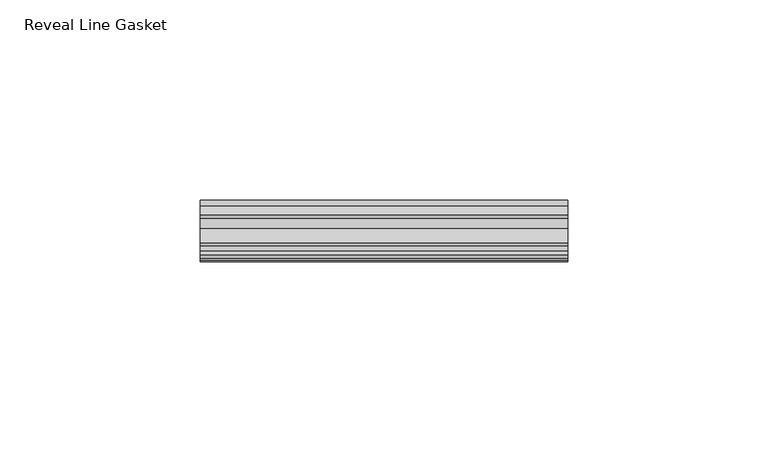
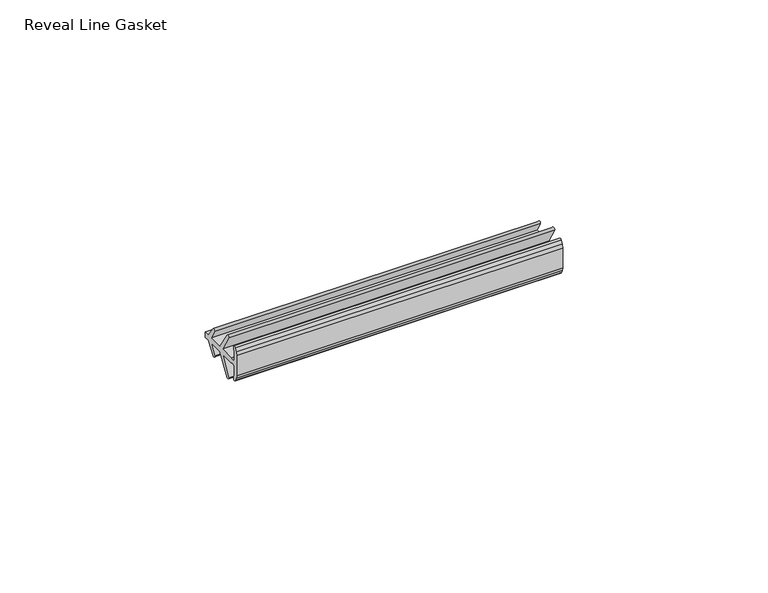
"""IFC4 building model written with IfcOpenShell, lengths in millimetres: proxy geometry, Accessories-Teknion-FHGR-AI_Healthcare-Reveal_Line_Gasket(Horizontal)-R2022 : Reveal Line Gasket."""

from ifc_helpers import new_model, si_unit, point, frame, frame_2d, origin, place, context, project, spatial, polyline, circle_curve, trimmed, segment, composite_curve, outline, extrude, source, transform, mapped, element, save


def reveal_line_gasket_759faebd(model_context):
    return source(origin(), model_context, "Body", "SweptSolid", [
        extrude(outline(composite_curve([segment(polyline([(-7.6326998, 1603.2), (-7.4091917, 1604.1554927), (-6.8813059, 1605.0884684)]), True, "CONTINUOUS"), segment(trimmed(circle_curve(frame_2d((-6.5243141, 1604.8864793)), 0.4101739), [point((-6.8813059, 1605.0884684))], [point((-6.1246704, 1604.7941347))], False, "CARTESIAN"), True, "CONTINUOUS"), segment(polyline([(-6.1246704, 1604.7941347), (-6.3626997, 1603.0979086), (-6.3626997, 1601.0654527)]), True, "CONTINUOUS"), segment(trimmed(circle_curve(frame_2d((-5.6959605, 1601.4819258)), 0.786124), [point((-6.3626997, 1601.0654527))], [point((-5.0926996, 1600.977875))], True, "CARTESIAN"), True, "CONTINUOUS"), segment(polyline([(-5.0926996, 1600.977875), (-0.7492996, 1600.977875), (-3.7293824, 1606.1395295)]), True, "CONTINUOUS"), segment(trimmed(circle_curve(frame_2d((-3.3132479, 1606.2049761)), 0.4212495), [point((-3.7293824, 1606.1395295))], [point((-3.0485022, 1606.5326358))], False, "CARTESIAN"), True, "CONTINUOUS"), segment(polyline([(-3.0485022, 1606.5326358), (0.5742594, 1600.977875), (4.8262978, 1600.977875), (3.1660374, 1603.8535297)]), True, "CONTINUOUS"), segment(trimmed(circle_curve(frame_2d((3.5978728, 1603.9118855)), 0.4357605), [point((3.1660374, 1603.8535297))], [point((3.864328, 1604.2566881))], False, "CARTESIAN"), True, "CONTINUOUS"), segment(polyline([(3.864328, 1604.2566881), (6.1944059, 1600.977875), (7.6326998, 1600.977875), (7.6326998, 1599.422125), (6.1944059, 1599.422125), (3.864328, 1596.1433119)]), True, "CONTINUOUS"), segment(trimmed(circle_curve(frame_2d((3.5978728, 1596.4881145)), 0.4357605), [point((3.864328, 1596.1433119))], [point((3.1660374, 1596.5464703))], False, "CARTESIAN"), True, "CONTINUOUS"), segment(polyline([(3.1660374, 1596.5464703), (4.8262978, 1599.422125), (0.5742594, 1599.422125), (-3.0485022, 1593.8673642)]), True, "CONTINUOUS"), segment(trimmed(circle_curve(frame_2d((-3.3132479, 1594.1950239)), 0.4212495), [point((-3.0485022, 1593.8673642))], [point((-3.7293824, 1594.2604705))], False, "CARTESIAN"), True, "CONTINUOUS"), segment(polyline([(-3.7293824, 1594.2604705), (-0.7492996, 1599.422125), (-5.0926996, 1599.422125)]), True, "CONTINUOUS"), segment(trimmed(circle_curve(frame_2d((-5.6959605, 1598.9180742)), 0.786124), [point((-5.0926996, 1599.422125))], [point((-6.3626997, 1599.3345473))], True, "CARTESIAN"), True, "CONTINUOUS"), segment(polyline([(-6.3626997, 1599.3345473), (-6.3626997, 1597.3020914), (-6.1246704, 1595.6058653)]), True, "CONTINUOUS"), segment(trimmed(circle_curve(frame_2d((-6.5243141, 1595.5135207)), 0.4101739), [point((-6.1246704, 1595.6058653))], [point((-6.8813059, 1595.3115316))], False, "CARTESIAN"), True, "CONTINUOUS"), segment(polyline([(-6.8813059, 1595.3115316), (-7.4091917, 1596.2445073), (-7.6326998, 1597.2), (-7.6326998, 1603.2)]), True, "CONTINUOUS")], self_intersect=False)), frame((-45.815909, 0.0, 0.0), z_axis=(1.0, 0.0, 0.0), x_axis=(0.0, 1.0, 0.0)), (0.0, 0.0, 1.0), 91.6318181),
    ])


if __name__ == "__main__":
    model = new_model("IFC4")
    model_context = context("Model", 3, world=origin())
    ifc_project = project(units=[si_unit("LENGTHUNIT", "METRE", prefix="MILLI")], contexts=[model_context])
    site = spatial("IfcSite", under=ifc_project)
    building = spatial("IfcBuilding", under=site)
    placement = place(None, origin())
    reveal_line_gasket_shape = reveal_line_gasket_759faebd(model_context)
    element("IfcBuildingElementProxy", 1, Name="Accessories-Teknion-FHGR-AI_Healthcare-Reveal_Line_Gasket(Horizontal)-R2022 : Reveal Line Gasket", ObjectType="Accessories-Teknion-FHGR-AI_Healthcare-Reveal_Line_Gasket(Horizontal)-R2022 : Reveal Line Gasket", at=placement, inside=building, context=model_context, shape_type="MappedRepresentation", body=[
        mapped(reveal_line_gasket_shape, transform((0.0, 0.0, 0.0), x_axis=(1.0, 0.0, 0.0), y_axis=(0.0, 1.0, 0.0), z_axis=(0.0, 0.0, 1.0))),
    ])
    save(model, "model.ifc")
